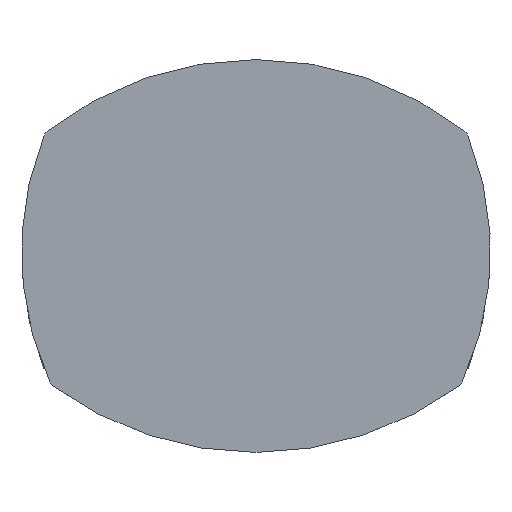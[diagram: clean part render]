
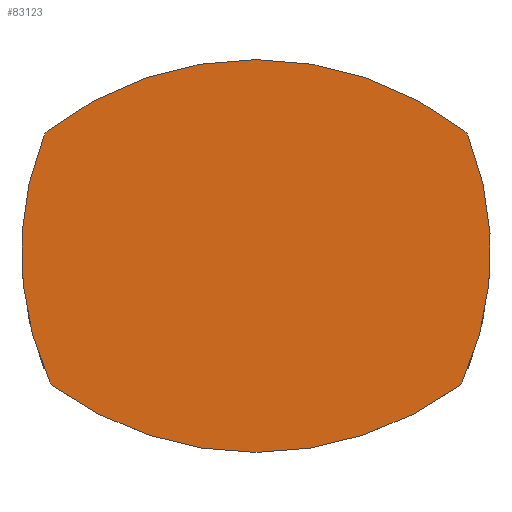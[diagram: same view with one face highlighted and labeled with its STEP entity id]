
A CAD part, top view. The second image highlights one B-rep face of the part: STEP entity #83123.
In plain terms, the highlighted planar face has unit normal (0, 0, 1).
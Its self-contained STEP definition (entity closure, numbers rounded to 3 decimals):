
#5137=CIRCLE('',#90693,10.);
#5138=CIRCLE('',#90695,355.);
#5139=CIRCLE('',#90696,10.);
#5140=CIRCLE('',#90697,323.);
#5141=CIRCLE('',#90698,10.);
#5142=CIRCLE('',#90699,352.);
#5143=CIRCLE('',#90700,10.);
#5144=CIRCLE('',#90701,323.);
#9782=FACE_OUTER_BOUND('',#14421,.T.);
#14421=EDGE_LOOP('',(#71833,#71834,#71835,#71836,#71837,#71838,#71839,#71840));
#37561=VERTEX_POINT('',#139473);
#37562=VERTEX_POINT('',#139475);
#37563=VERTEX_POINT('',#139479);
#37564=VERTEX_POINT('',#139481);
#37565=VERTEX_POINT('',#139483);
#37566=VERTEX_POINT('',#139485);
#37567=VERTEX_POINT('',#139487);
#37568=VERTEX_POINT('',#139489);
#48987=EDGE_CURVE('',#37561,#37562,#5137,.T.);
#48989=EDGE_CURVE('',#37563,#37561,#5138,.T.);
#48990=EDGE_CURVE('',#37564,#37563,#5139,.T.);
#48991=EDGE_CURVE('',#37565,#37564,#5140,.T.);
#48992=EDGE_CURVE('',#37566,#37565,#5141,.T.);
#48993=EDGE_CURVE('',#37567,#37566,#5142,.T.);
#48994=EDGE_CURVE('',#37568,#37567,#5143,.T.);
#48995=EDGE_CURVE('',#37562,#37568,#5144,.T.);
#71833=ORIENTED_EDGE('',*,*,#48987,.F.);
#71834=ORIENTED_EDGE('',*,*,#48989,.F.);
#71835=ORIENTED_EDGE('',*,*,#48990,.F.);
#71836=ORIENTED_EDGE('',*,*,#48991,.F.);
#71837=ORIENTED_EDGE('',*,*,#48992,.F.);
#71838=ORIENTED_EDGE('',*,*,#48993,.F.);
#71839=ORIENTED_EDGE('',*,*,#48994,.F.);
#71840=ORIENTED_EDGE('',*,*,#48995,.F.);
#74571=PLANE('',#90694);
#83123=ADVANCED_FACE('',(#9782),#74571,.F.);
#90693=AXIS2_PLACEMENT_3D('',#139476,#113572,#113573);
#90694=AXIS2_PLACEMENT_3D('',#139478,#113575,#113576);
#90695=AXIS2_PLACEMENT_3D('',#139480,#113577,#113578);
#90696=AXIS2_PLACEMENT_3D('',#139482,#113579,#113580);
#90697=AXIS2_PLACEMENT_3D('',#139484,#113581,#113582);
#90698=AXIS2_PLACEMENT_3D('',#139486,#113583,#113584);
#90699=AXIS2_PLACEMENT_3D('',#139488,#113585,#113586);
#90700=AXIS2_PLACEMENT_3D('',#139490,#113587,#113588);
#90701=AXIS2_PLACEMENT_3D('',#139491,#113589,#113590);
#113572=DIRECTION('center_axis',(0.,0.,
-1.));
#113573=DIRECTION('ref_axis',(-0.776,-0.631,0.));
#113575=DIRECTION('center_axis',(0.,0.,
-1.));
#113576=DIRECTION('ref_axis',(1.,0.,0.));
#113577=DIRECTION('center_axis',(0.,0.,
-1.));
#113578=DIRECTION('ref_axis',(0.599,-0.801,0.));
#113579=DIRECTION('center_axis',(0.,0.,
-1.));
#113580=DIRECTION('ref_axis',(0.776,-0.631,0.));
#113581=DIRECTION('center_axis',(0.,0.,
-1.));
#113582=DIRECTION('ref_axis',(0.924,0.382,0.));
#113583=DIRECTION('center_axis',(0.,0.,
-1.));
#113584=DIRECTION('ref_axis',(0.798,0.602,0.));
#113585=DIRECTION('center_axis',(0.,0.,
-1.));
#113586=DIRECTION('ref_axis',(-0.621,0.784,0.));
#113587=DIRECTION('center_axis',(0.,0.,
-1.));
#113588=DIRECTION('ref_axis',(-0.798,0.602,0.));
#113589=DIRECTION('center_axis',(0.,0.,
-1.));
#113590=DIRECTION('ref_axis',(-0.906,-0.424,0.));
#139473=CARTESIAN_POINT('',(-210.525,-285.84,569.));
#139475=CARTESIAN_POINT('',(-213.687,-281.95,569.));
#139476=CARTESIAN_POINT('Origin',(-204.595,-277.788,569.));
#139478=CARTESIAN_POINT('Origin',(0.,-151.453,
569.));
#139479=CARTESIAN_POINT('',(210.525,-285.84,569.));
#139480=CARTESIAN_POINT('Origin',(0.,0.,
569.));
#139481=CARTESIAN_POINT('',(213.687,-281.95,569.));
#139482=CARTESIAN_POINT('Origin',(204.595,-277.788,569.));
#139483=CARTESIAN_POINT('',(219.469,-26.473,569.));
#139484=CARTESIAN_POINT('Origin',(-80.,-147.5,569.));
#139485=CARTESIAN_POINT('',(216.343,-22.332,569.));
#139486=CARTESIAN_POINT('Origin',(210.197,-30.22,569.));
#139487=CARTESIAN_POINT('',(-216.343,-22.332,569.));
#139488=CARTESIAN_POINT('Origin',(0.,-300.,569.));
#139489=CARTESIAN_POINT('',(-219.469,-26.473,569.));
#139490=CARTESIAN_POINT('Origin',(-210.197,-30.22,569.));
#139491=CARTESIAN_POINT('Origin',(80.,-147.5,569.));
